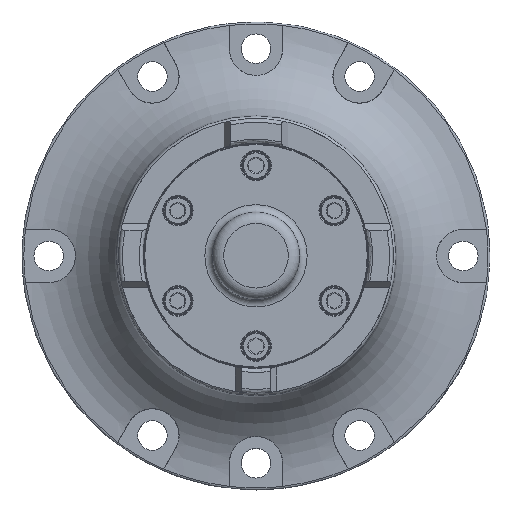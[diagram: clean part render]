
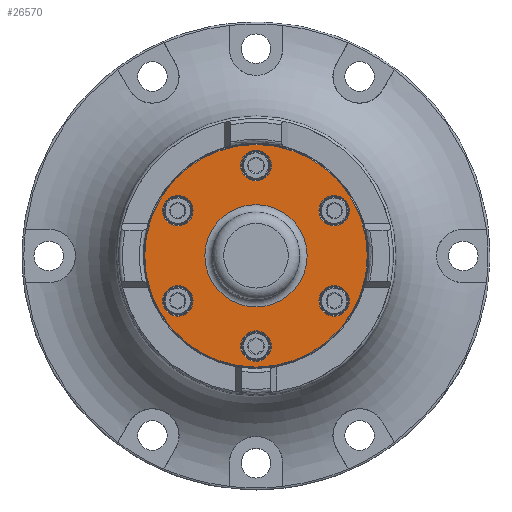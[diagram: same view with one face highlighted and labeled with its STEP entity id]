
A CAD part, top view. The second image highlights one B-rep face of the part: STEP entity #26570.
In plain terms, the highlighted planar face has unit normal (0, 0, 1).
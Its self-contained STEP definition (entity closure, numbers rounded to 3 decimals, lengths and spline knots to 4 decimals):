
#529=FACE_BOUND('',#4916,.T.);
#530=FACE_BOUND('',#4917,.T.);
#531=FACE_BOUND('',#4918,.T.);
#532=FACE_BOUND('',#4919,.T.);
#533=FACE_BOUND('',#4920,.T.);
#534=FACE_BOUND('',#4921,.T.);
#535=FACE_BOUND('',#4922,.T.);
#616=PLANE('',#28509);
#3131=FACE_OUTER_BOUND('',#4915,.T.);
#4915=EDGE_LOOP('',(#18326));
#4916=EDGE_LOOP('',(#18327));
#4917=EDGE_LOOP('',(#18328));
#4918=EDGE_LOOP('',(#18329));
#4919=EDGE_LOOP('',(#18330));
#4920=EDGE_LOOP('',(#18331));
#4921=EDGE_LOOP('',(#18332));
#4922=EDGE_LOOP('',(#18333));
#6654=CIRCLE('',#28508,1.48);
#6655=CIRCLE('',#28510,0.2025);
#6656=CIRCLE('',#28511,0.2025);
#6657=CIRCLE('',#28512,0.2025);
#6658=CIRCLE('',#28513,0.68);
#6659=CIRCLE('',#28514,0.2025);
#6660=CIRCLE('',#28515,0.2025);
#6661=CIRCLE('',#28516,0.2025);
#10831=VERTEX_POINT('',#53175);
#10832=VERTEX_POINT('',#53179);
#10833=VERTEX_POINT('',#53181);
#10834=VERTEX_POINT('',#53183);
#10835=VERTEX_POINT('',#53185);
#10836=VERTEX_POINT('',#53187);
#10837=VERTEX_POINT('',#53189);
#10838=VERTEX_POINT('',#53191);
#13573=EDGE_CURVE('',#10831,#10831,#6654,.T.);
#13575=EDGE_CURVE('',#10832,#10832,#6655,.T.);
#13576=EDGE_CURVE('',#10833,#10833,#6656,.T.);
#13577=EDGE_CURVE('',#10834,#10834,#6657,.T.);
#13578=EDGE_CURVE('',#10835,#10835,#6658,.T.);
#13579=EDGE_CURVE('',#10836,#10836,#6659,.T.);
#13580=EDGE_CURVE('',#10837,#10837,#6660,.T.);
#13581=EDGE_CURVE('',#10838,#10838,#6661,.T.);
#18326=ORIENTED_EDGE('',*,*,#13573,.F.);
#18327=ORIENTED_EDGE('',*,*,#13575,.F.);
#18328=ORIENTED_EDGE('',*,*,#13576,.F.);
#18329=ORIENTED_EDGE('',*,*,#13577,.F.);
#18330=ORIENTED_EDGE('',*,*,#13578,.F.);
#18331=ORIENTED_EDGE('',*,*,#13579,.F.);
#18332=ORIENTED_EDGE('',*,*,#13580,.F.);
#18333=ORIENTED_EDGE('',*,*,#13581,.F.);
#26570=ADVANCED_FACE('',(#3131,#529,#530,#531,#532,#533,#534,#535),#616,
 .T.);
#28508=AXIS2_PLACEMENT_3D('',#53176,#32089,#32090);
#28509=AXIS2_PLACEMENT_3D('',#53178,#32092,#32093);
#28510=AXIS2_PLACEMENT_3D('',#53180,#32094,#32095);
#28511=AXIS2_PLACEMENT_3D('',#53182,#32096,#32097);
#28512=AXIS2_PLACEMENT_3D('',#53184,#32098,#32099);
#28513=AXIS2_PLACEMENT_3D('',#53186,#32100,#32101);
#28514=AXIS2_PLACEMENT_3D('',#53188,#32102,#32103);
#28515=AXIS2_PLACEMENT_3D('',#53190,#32104,#32105);
#28516=AXIS2_PLACEMENT_3D('',#53192,#32106,#32107);
#32089=DIRECTION('center_axis',(0.,0.,
-1.));
#32090=DIRECTION('ref_axis',(0.,1.,0.));
#32092=DIRECTION('center_axis',(0.,0.,
1.));
#32093=DIRECTION('ref_axis',(0.,-1.,0.));
#32094=DIRECTION('center_axis',(0.,0.,
1.));
#32095=DIRECTION('ref_axis',(0.,1.,0.));
#32096=DIRECTION('center_axis',(0.,0.,
1.));
#32097=DIRECTION('ref_axis',(0.,1.,0.));
#32098=DIRECTION('center_axis',(0.,0.,
1.));
#32099=DIRECTION('ref_axis',(0.,1.,0.));
#32100=DIRECTION('center_axis',(0.,0.,
1.));
#32101=DIRECTION('ref_axis',(0.,1.,0.));
#32102=DIRECTION('center_axis',(0.,0.,
1.));
#32103=DIRECTION('ref_axis',(0.,1.,0.));
#32104=DIRECTION('center_axis',(0.,0.,
1.));
#32105=DIRECTION('ref_axis',(0.,1.,0.));
#32106=DIRECTION('center_axis',(0.,0.,
1.));
#32107=DIRECTION('ref_axis',(0.,1.,0.));
#53175=CARTESIAN_POINT('',(0.,-1.48,1.825));
#53176=CARTESIAN_POINT('Origin',(0.,0.,
1.825));
#53178=CARTESIAN_POINT('Origin',(0.,-0.58,1.825));
#53179=CARTESIAN_POINT('',(0.,0.9975,1.825));
#53180=CARTESIAN_POINT('Origin',(0.,1.2,1.825));
#53181=CARTESIAN_POINT('',(1.0392,-0.8025,1.825));
#53182=CARTESIAN_POINT('Origin',(1.0392,-0.6,1.825));
#53183=CARTESIAN_POINT('',(-1.0392,-0.8025,1.825));
#53184=CARTESIAN_POINT('Origin',(-1.0392,-0.6,1.825));
#53185=CARTESIAN_POINT('',(0.,0.68,1.825));
#53186=CARTESIAN_POINT('Origin',(0.,0.,
1.825));
#53187=CARTESIAN_POINT('',(0.,-1.4025,1.825));
#53188=CARTESIAN_POINT('Origin',(0.,-1.2,1.825));
#53189=CARTESIAN_POINT('',(1.0392,0.3975,1.825));
#53190=CARTESIAN_POINT('Origin',(1.0392,0.6,1.825));
#53191=CARTESIAN_POINT('',(-1.0392,0.3975,1.825));
#53192=CARTESIAN_POINT('Origin',(-1.0392,0.6,1.825));
